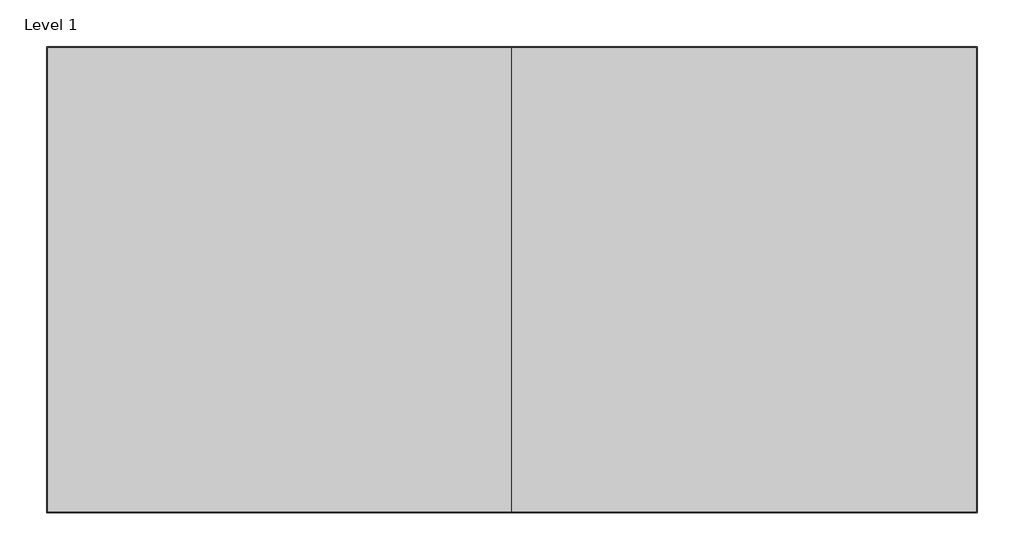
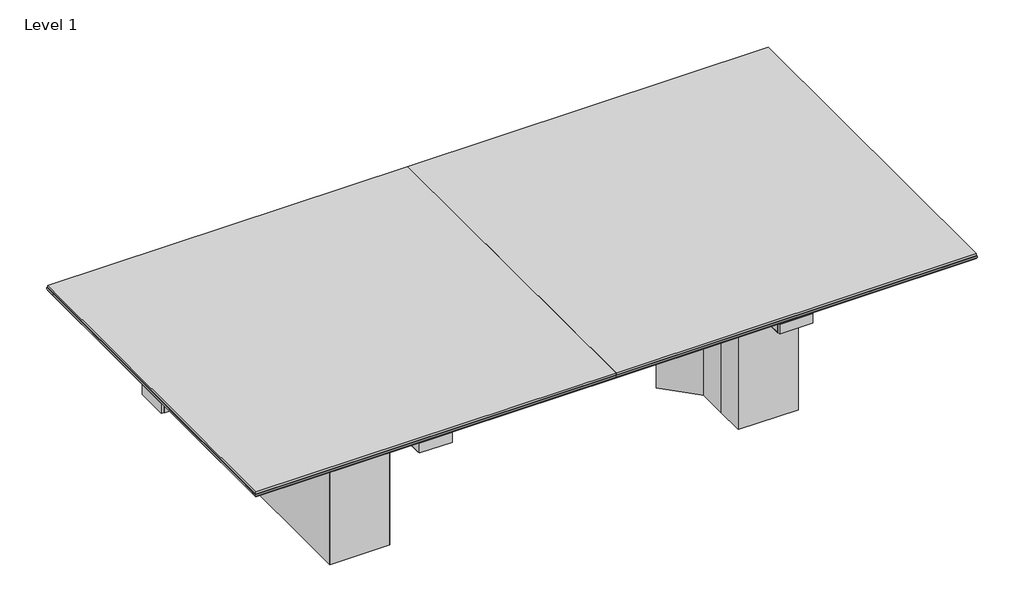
# One storey: 11 proxies.
"""IFC4 building model written with IfcOpenShell, lengths in millimetres."""

from ifc_helpers import new_model, si_unit, origin, place, context, project, spatial, transform, mapped, element, save
from components import generic_models_e7c302b0, generic_models_c415d296, generic_models_9a3d8a30, generic_models_7fb8ee6f

model = new_model("IFC4")

# Units and contexts
model_context = context("Model", 3, world=origin())
ifc_project = project(units=[si_unit("LENGTHUNIT", "METRE", prefix="MILLI")], contexts=[model_context])

# Site, building, storey
site = spatial("IfcSite", under=ifc_project)
building = spatial("IfcBuilding", under=site)
storey = spatial("IfcBuildingStorey", under=building, Name="Level 1", Elevation=0.0)

# Proxies
placement = place(None, origin())
generic_models_shape = generic_models_e7c302b0(model_context)
element("IfcBuildingElementProxy", 1, Name="ASHLEY DUO", ObjectType="ASHLEY DUO", at=placement, inside=storey, context=model_context, shape_type="MappedRepresentation", body=[
    mapped(generic_models_shape, transform((2976.88, -831.977, -20.32), x_axis=(0.0, 1.0, 0.0), y_axis=(0.0, 0.0, 1.0), z_axis=(1.0, 0.0, 0.0))),
])
element("IfcBuildingElementProxy", 2, Name="ASHLEY DUO", ObjectType="ASHLEY DUO", at=placement, inside=storey, context=model_context, shape_type="MappedRepresentation", body=[
    mapped(generic_models_shape, transform((2355.977, -71.12, -20.32), x_axis=(-1.0, 0.0, 0.0), y_axis=(0.0, 0.0, 1.0), z_axis=(0.0, 1.0, 0.0))),
])
element("IfcBuildingElementProxy", 3, Name="ASHLEY DUO", ObjectType="ASHLEY DUO", at=placement, inside=storey, context=model_context, shape_type="MappedRepresentation", body=[
    mapped(generic_models_shape, transform((2216.023, -1452.88, -20.32), x_axis=(1.0, 0.0, 0.0), y_axis=(0.0, 0.0, 1.0), z_axis=(0.0, -1.0, 0.0))),
])
element("IfcBuildingElementProxy", 4, Name="ASHLEY DUO", ObjectType="ASHLEY DUO", at=placement, inside=storey, context=model_context, shape_type="MappedRepresentation", body=[
    mapped(generic_models_shape, transform((831.977, -71.12, -20.32), x_axis=(-1.0, 0.0, 0.0), y_axis=(0.0, 0.0, 1.0), z_axis=(0.0, 1.0, 0.0))),
])
element("IfcBuildingElementProxy", 5, Name="ASHLEY DUO", ObjectType="ASHLEY DUO", at=placement, inside=storey, context=model_context, shape_type="MappedRepresentation", body=[
    mapped(generic_models_shape, transform((71.12, -692.023, -20.32), x_axis=(0.0, -1.0, 0.0), y_axis=(0.0, 0.0, 1.0), z_axis=(-1.0, 0.0, 0.0))),
])
element("IfcBuildingElementProxy", 6, Name="ASHLEY DUO", ObjectType="ASHLEY DUO", at=placement, inside=storey, context=model_context, shape_type="MappedRepresentation", body=[
    mapped(generic_models_shape, transform((692.023, -1452.88, -20.32), x_axis=(1.0, 0.0, 0.0), y_axis=(0.0, 0.0, 1.0), z_axis=(0.0, -1.0, 0.0))),
])
generic_models_2_shape = generic_models_c415d296(model_context)
element("IfcBuildingElementProxy", 7, Name="IMPRESS^TABLE 3_10X30 END BASE-ASSEMBLY", ObjectType="IMPRESS^TABLE 3_10X30 END BASE-ASSEMBLY", at=placement, inside=storey, context=model_context, shape_type="MappedRepresentation", body=[
    mapped(generic_models_2_shape, transform((787.4, -1143.0, -695.325), x_axis=(0.0, 1.0, 0.0), y_axis=(0.0, 0.0, 1.0), z_axis=(1.0, 0.0, 0.0))),
])
element("IfcBuildingElementProxy", 8, Name="IMPRESS^TABLE 3_10X30 END BASE-ASSEMBLY", ObjectType="IMPRESS^TABLE 3_10X30 END BASE-ASSEMBLY", at=placement, inside=storey, context=model_context, shape_type="MappedRepresentation", body=[
    mapped(generic_models_2_shape, transform((2260.6, -381.0, -695.325), x_axis=(0.0, -1.0, 0.0), y_axis=(0.0, 0.0, 1.0), z_axis=(-1.0, 0.0, 0.0))),
])
generic_models_3_shape = generic_models_9a3d8a30(model_context)
element("IfcBuildingElementProxy", 9, Name="IMPRESS^TABLE 3_2pc 60x120-KEEL", ObjectType="IMPRESS^TABLE 3_2pc 60x120-KEEL", at=placement, inside=storey, context=model_context, shape_type="MappedRepresentation", body=[
    mapped(generic_models_3_shape, transform((228.6, -1085.85, -101.6), x_axis=(1.0, 0.0, 0.0), y_axis=(0.0, 0.0, 1.0), z_axis=(0.0, -1.0, 0.0))),
])
element("IfcBuildingElementProxy", 10, Name="IMPRESS^TABLE 3_2pc 60x120-KEEL", ObjectType="IMPRESS^TABLE 3_2pc 60x120-KEEL", at=placement, inside=storey, context=model_context, shape_type="MappedRepresentation", body=[
    mapped(generic_models_3_shape, transform((228.6, -406.4, -101.6), x_axis=(1.0, 0.0, 0.0), y_axis=(0.0, 0.0, 1.0), z_axis=(0.0, -1.0, 0.0))),
])
generic_models_4_shape = generic_models_7fb8ee6f(model_context)
element("IfcBuildingElementProxy", 11, Name="IMPRESS^TABLE 3_2pc 60x120-TOP PARTS SOLID", ObjectType="IMPRESS^TABLE 3_2pc 60x120-TOP PARTS SOLID", at=placement, inside=storey, context=model_context, shape_type="MappedRepresentation", body=[
    mapped(generic_models_4_shape, transform((0.0, -1524.0, 38.1), x_axis=(1.0, 0.0, 0.0), y_axis=(0.0, 0.0, 1.0), z_axis=(0.0, -1.0, 0.0))),
])

save(model, "model.ifc")
